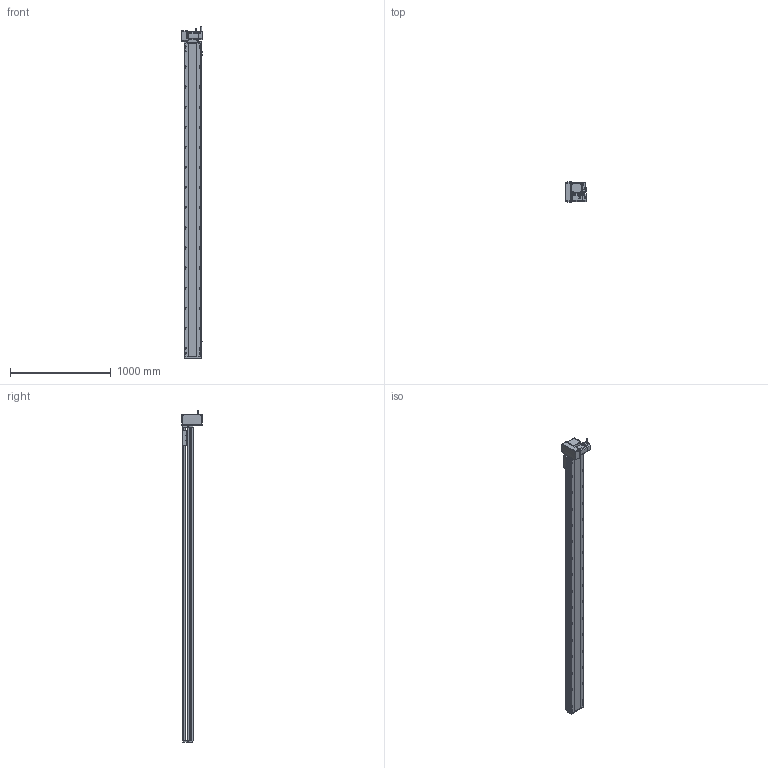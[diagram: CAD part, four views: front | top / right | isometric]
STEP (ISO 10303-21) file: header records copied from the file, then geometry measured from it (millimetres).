
FILE_DESCRIPTION (( 'STEP AP214' ), '1' );
FILE_NAME ('RTB17S-XX-2850-LM-M75-C4.STEP', '2025-12-12T00:48:50', ( '' ), ( '' ), 'SwSTEP 2.0', 'SolidWorks 2018', '' );
FILE_SCHEMA (( 'AUTOMOTIVE_DESIGN' ));
Length unit declared in the file: millimetre
Products named in the file (15): EE672^RTB17S-XX-XX-LM-M75-C4; RTB22S-GY-017P^RTB17S-LM-々湍釱蚾饜-750W_RTB17S-XX-XX-LM-M75-C4; RTB17S-LM-々湍釱蚾饜-750W^RTB17S-XX-XX-LM-M75-C4; RTB22S-GY-008-M75--萇儂啣^RTB17S-LM-々湍釱蚾饜-750W_RTB17S-XX-XX-LM-M75-C4; RTH13-BL-012覜茼え俋离^RTB17S-賑釱_RTB17S-XX-XX-LM-M75-C4; RTB17S-L-014-T20-P75--々湍釱^RTB17S-LM-々湍釱蚾饜-750W_RTB17S-XX-XX-LM-M75-C4; RTB17-R-011菁釱^RTB17S-XX-XX-LM-M75-C4; RTB17S-賑釱^RTB17S-XX-XX-LM-M75-C4; RTB17S-XX-2850-LM-M75-C4; 750W萇儂^RTB17S-XX-XX-LM-M75-C4; RTB17S-L-004-賑釱^RTB17S-賑釱_RTB17S-XX-XX-LM-M75-C4; RTB17S-L-001-耜醱啣^RTB17S-XX-XX-LM-M75-C4; RTB22S-GY-005P^RTB17S-LM-々湍釱蚾饜-750W_RTB17S-XX-XX-LM-M75-C4; RTB17S-L-007奻裔^RTB17S-XX-XX-LM-M75-C4; RTB22S-GY-018P^RTB17S-LM-々湍釱蚾饜-750W_RTB17S-XX-XX-LM-M75-C4
Assembly tree (17 placements, depth 3):
  RTB17S-XX-2850-LM-M75-C4
    RTB17-R-011菁釱^RTB17S-XX-XX-LM-M75-C4
    EE672^RTB17S-XX-XX-LM-M75-C4  x3
    RTB17S-L-001-耜醱啣^RTB17S-XX-XX-LM-M75-C4
    RTB17S-賑釱^RTB17S-XX-XX-LM-M75-C4
      RTB17S-L-004-賑釱^RTB17S-賑釱_RTB17S-XX-XX-LM-M75-C4
      RTH13-BL-012覜茼え俋离^RTB17S-賑釱_RTB17S-XX-XX-LM-M75-C4
    RTB17S-L-007奻裔^RTB17S-XX-XX-LM-M75-C4
    750W萇儂^RTB17S-XX-XX-LM-M75-C4
    RTB17S-LM-々湍釱蚾饜-750W^RTB17S-XX-XX-LM-M75-C4
      RTB17S-L-014-T20-P75--々湍釱^RTB17S-LM-々湍釱蚾饜-750W_RTB17S-XX-XX-LM-M75-C4
      RTB22S-GY-005P^RTB17S-LM-々湍釱蚾饜-750W_RTB17S-XX-XX-LM-M75-C4
      RTB22S-GY-017P^RTB17S-LM-々湍釱蚾饜-750W_RTB17S-XX-XX-LM-M75-C4  x2
      RTB22S-GY-008-M75--萇儂啣^RTB17S-LM-々湍釱蚾饜-750W_RTB17S-XX-XX-LM-M75-C4
      RTB22S-GY-018P^RTB17S-LM-々湍釱蚾饜-750W_RTB17S-XX-XX-LM-M75-C4
Bounding box: 210.4 x 200 x 3302.2 mm (x, y, z)
Volume: 23760540.7 mm3; surface area: 4345126.7 mm2
Topology: 17 solids, 17 shells, 2249 faces, 6322 edges, 4094 vertices
Faces by surface type: plane 990, cylinder 843, bspline 294, cone 110, sphere 8, torus 4
Entity records: 65782 total; most frequent: CARTESIAN_POINT 19586, ORIENTED_EDGE 9488, DIRECTION 8762, EDGE_CURVE 4744, AXIS2_PLACEMENT_3D 3114, VERTEX_POINT 3098, LINE 2534, VECTOR 2534
